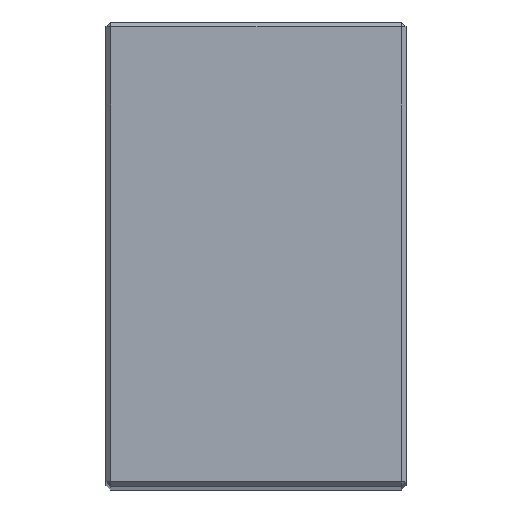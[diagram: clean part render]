
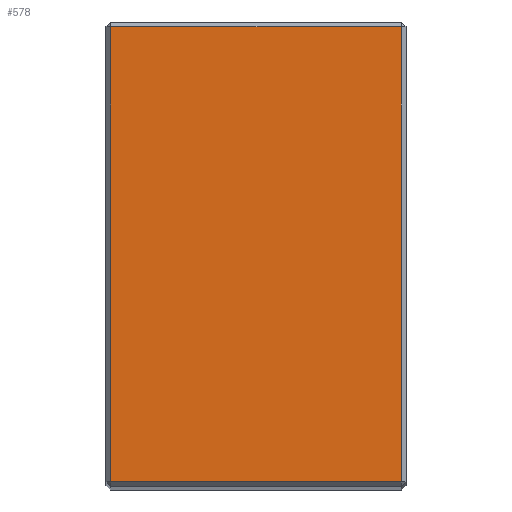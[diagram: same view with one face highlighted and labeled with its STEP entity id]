
A CAD part, top view. The second image highlights one B-rep face of the part: STEP entity #578.
In plain terms, the highlighted planar face has unit normal (0, 0, 1).
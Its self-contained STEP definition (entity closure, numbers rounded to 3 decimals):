
#9 = FACE_OUTER_BOUND ( 'NONE', #482, .T. ) ;
#46 = ORIENTED_EDGE ( 'NONE', *, *, #630, .T. ) ;
#63 = ORIENTED_EDGE ( 'NONE', *, *, #470, .T. ) ;
#99 = LINE ( 'NONE', #619, #557 ) ;
#104 = CARTESIAN_POINT ( 'NONE',  ( -30., 95., 198. ) ) ;
#120 = DIRECTION ( 'NONE',  ( 0., 0., -1. ) ) ;
#121 = VERTEX_POINT ( 'NONE', #312 ) ;
#189 = CARTESIAN_POINT ( 'NONE',  ( -31., 95., 198. ) ) ;
#207 = CARTESIAN_POINT ( 'NONE',  ( -30., 1., 198. ) ) ;
#226 = DIRECTION ( 'NONE',  ( 0., -1., 0. ) ) ;
#231 = ORIENTED_EDGE ( 'NONE', *, *, #497, .T. ) ;
#269 = VERTEX_POINT ( 'NONE', #207 ) ;
#288 = DIRECTION ( 'NONE',  ( 0., 1., 0. ) ) ;
#312 = CARTESIAN_POINT ( 'NONE',  ( 30., 1., 198. ) ) ;
#400 = LINE ( 'NONE', #425, #638 ) ;
#415 = LINE ( 'NONE', #515, #430 ) ;
#416 = VERTEX_POINT ( 'NONE', #104 ) ;
#425 = CARTESIAN_POINT ( 'NONE',  ( 31., 1., 198. ) ) ;
#430 = VECTOR ( 'NONE', #226, 1000. ) ;
#433 = AXIS2_PLACEMENT_3D ( 'NONE', #529, #120, #481 ) ;
#435 = PLANE ( 'NONE',  #433 ) ;
#438 = EDGE_CURVE ( 'NONE', #416, #269, #415, .T. ) ;
#470 = EDGE_CURVE ( 'NONE', #269, #121, #400, .T. ) ;
#471 = ORIENTED_EDGE ( 'NONE', *, *, #438, .T. ) ;
#474 = DIRECTION ( 'NONE',  ( 1., 0., 0. ) ) ;
#481 = DIRECTION ( 'NONE',  ( -1., 0., 0. ) ) ;
#482 = EDGE_LOOP ( 'NONE', ( #46, #471, #63, #231 ) ) ;
#489 = VERTEX_POINT ( 'NONE', #522 ) ;
#497 = EDGE_CURVE ( 'NONE', #121, #489, #99, .T. ) ;
#515 = CARTESIAN_POINT ( 'NONE',  ( -30., 96., 198. ) ) ;
#522 = CARTESIAN_POINT ( 'NONE',  ( 30., 95., 198. ) ) ;
#529 = CARTESIAN_POINT ( 'NONE',  ( 31., 96., 198. ) ) ;
#538 = DIRECTION ( 'NONE',  ( -1., 0., 0. ) ) ;
#549 = VECTOR ( 'NONE', #538, 1000. ) ;
#557 = VECTOR ( 'NONE', #288, 1000. ) ;
#578 = ADVANCED_FACE ( 'NONE', ( #9 ), #435, .F. ) ;
#619 = CARTESIAN_POINT ( 'NONE',  ( 30., 96., 198. ) ) ;
#630 = EDGE_CURVE ( 'NONE', #489, #416, #631, .T. ) ;
#631 = LINE ( 'NONE', #189, #549 ) ;
#638 = VECTOR ( 'NONE', #474, 1000. ) ;
